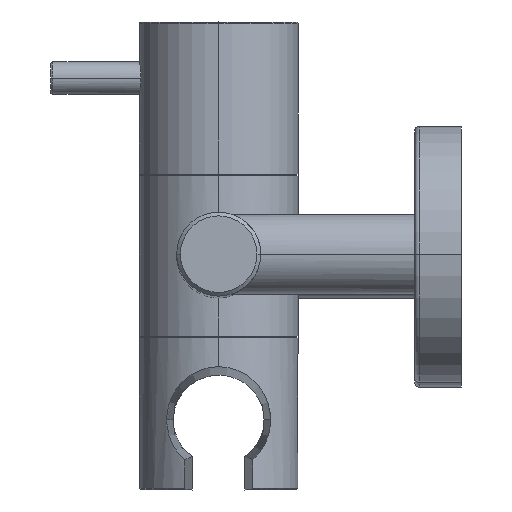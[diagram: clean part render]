
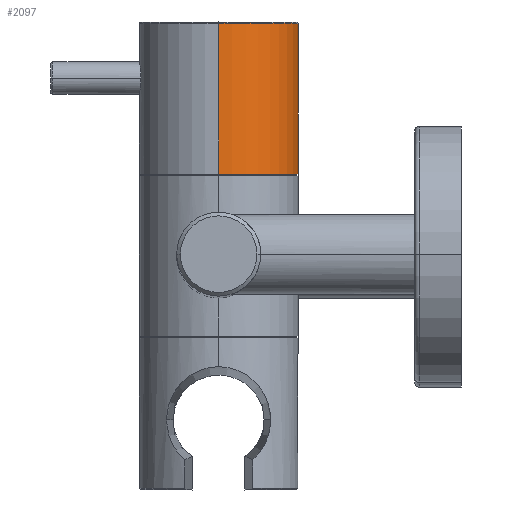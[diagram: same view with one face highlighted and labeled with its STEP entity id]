
A CAD part, top view. The second image highlights one B-rep face of the part: STEP entity #2097.
In plain terms, the highlighted cylindrical face has radius 17 mm (diameter 34 mm), a partial arc.
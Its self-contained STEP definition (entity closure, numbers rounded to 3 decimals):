
#132 = VECTOR ( 'NONE', #310, 1000. ) ;
#142 = ORIENTED_EDGE ( 'NONE', *, *, #168, .T. ) ;
#168 = EDGE_CURVE ( 'NONE', #1805, #1316, #1186, .T. ) ;
#271 = VERTEX_POINT ( 'NONE', #1202 ) ;
#285 = CARTESIAN_POINT ( 'NONE',  ( 8., 25.5, 447. ) ) ;
#310 = DIRECTION ( 'NONE',  ( 0., -1., 0. ) ) ;
#345 = LINE ( 'NONE', #2282, #722 ) ;
#351 = DIRECTION ( 'NONE',  ( 0., -1., 0. ) ) ;
#392 = CARTESIAN_POINT ( 'NONE',  ( 8., 57.8, 447. ) ) ;
#398 = EDGE_CURVE ( 'NONE', #271, #1316, #1880, .T. ) ;
#414 = EDGE_CURVE ( 'NONE', #1722, #1805, #2222, .T. ) ;
#422 = FACE_OUTER_BOUND ( 'NONE', #2021, .T. ) ;
#645 = ORIENTED_EDGE ( 'NONE', *, *, #398, .F. ) ;
#678 = AXIS2_PLACEMENT_3D ( 'NONE', #1430, #1421, #1239 ) ;
#722 = VECTOR ( 'NONE', #351, 1000. ) ;
#813 = ORIENTED_EDGE ( 'NONE', *, *, #2281, .F. ) ;
#1017 = CARTESIAN_POINT ( 'NONE',  ( 8., 58.1, 430. ) ) ;
#1033 = AXIS2_PLACEMENT_3D ( 'NONE', #1777, #1751, #1611 ) ;
#1153 = CARTESIAN_POINT ( 'NONE',  ( 8., 57.8, 413. ) ) ;
#1186 = LINE ( 'NONE', #1867, #132 ) ;
#1202 = CARTESIAN_POINT ( 'NONE',  ( 8., 25.5, 413. ) ) ;
#1239 = DIRECTION ( 'NONE',  ( 0., 0., -1. ) ) ;
#1316 = VERTEX_POINT ( 'NONE', #285 ) ;
#1421 = DIRECTION ( 'NONE',  ( 0., -1., 0. ) ) ;
#1430 = CARTESIAN_POINT ( 'NONE',  ( 8., 25.5, 430. ) ) ;
#1439 = CYLINDRICAL_SURFACE ( 'NONE', #2035, 17. ) ;
#1611 = DIRECTION ( 'NONE',  ( 0., 0., 1. ) ) ;
#1677 = ORIENTED_EDGE ( 'NONE', *, *, #414, .T. ) ;
#1722 = VERTEX_POINT ( 'NONE', #1153 ) ;
#1751 = DIRECTION ( 'NONE',  ( 0., -1., 0. ) ) ;
#1777 = CARTESIAN_POINT ( 'NONE',  ( 8., 57.8, 430. ) ) ;
#1805 = VERTEX_POINT ( 'NONE', #392 ) ;
#1867 = CARTESIAN_POINT ( 'NONE',  ( 8., 58.1, 447. ) ) ;
#1880 = CIRCLE ( 'NONE', #678, 17. ) ;
#1899 = DIRECTION ( 'NONE',  ( 0., -1., 0. ) ) ;
#2021 = EDGE_LOOP ( 'NONE', ( #1677, #142, #645, #813 ) ) ;
#2035 = AXIS2_PLACEMENT_3D ( 'NONE', #1017, #1899, #2273 ) ;
#2097 = ADVANCED_FACE ( 'NONE', ( #422 ), #1439, .T. ) ;
#2222 = CIRCLE ( 'NONE', #1033, 17. ) ;
#2273 = DIRECTION ( 'NONE',  ( 0., 0., -1. ) ) ;
#2281 = EDGE_CURVE ( 'NONE', #1722, #271, #345, .T. ) ;
#2282 = CARTESIAN_POINT ( 'NONE',  ( 8., 58.1, 413. ) ) ;
